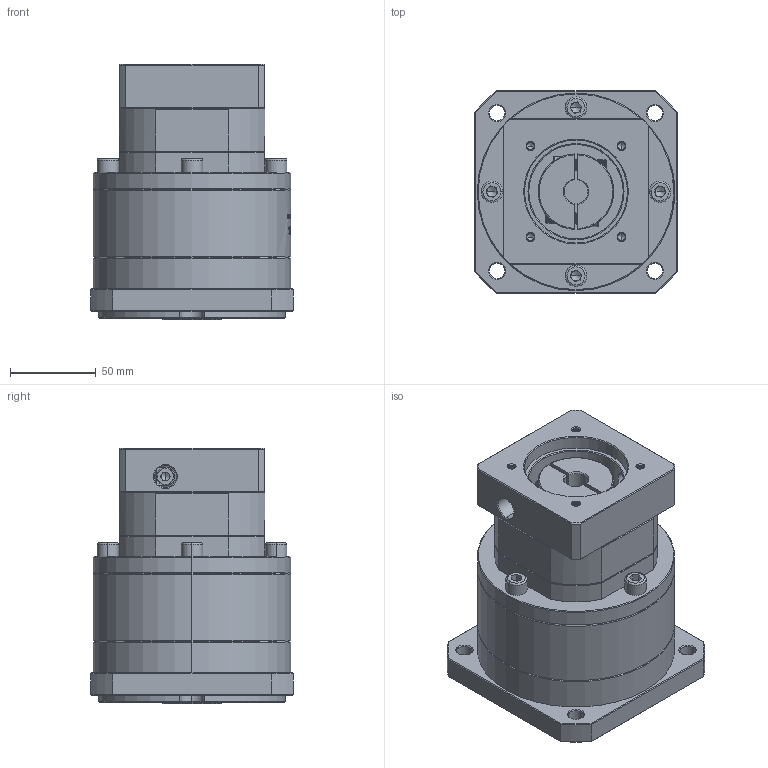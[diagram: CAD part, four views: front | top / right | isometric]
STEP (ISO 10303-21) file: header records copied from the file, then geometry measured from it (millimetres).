
FILE_DESCRIPTION (( 'STEP AP214' ), '1' );
FILE_NAME ('ZF120A-K25-L2-14-60-75-M5.step', '2023-03-07T15:03:21', ( '' ), ( 'Microsoft' ), 'SwSTEP 2.0', 'SolidWorks 2016', '' );
FILE_SCHEMA (( 'AUTOMOTIVE_DESIGN' ));
Length unit declared in the file: millimetre
Products named in the file (1): ZF120A-K25-L2-14-60-75-M5
Bounding box: 118 x 118 x 149 mm (x, y, z)
Volume: 1243863.3 mm3; surface area: 123875 mm2
Topology: 5 solids, 6 shells, 1885 faces, 4936 edges, 3143 vertices
Faces by surface type: plane 876, cylinder 369, cone 313, bspline 312, torus 15
Entity records: 99832 total; most frequent: CARTESIAN_POINT 36306, ORIENTED_EDGE 9816, DIRECTION 7610, EDGE_CURVE 4908, VERTEX_POINT 3143, VECTOR 2700, LINE 2700, AXIS2_PLACEMENT_3D 2455
